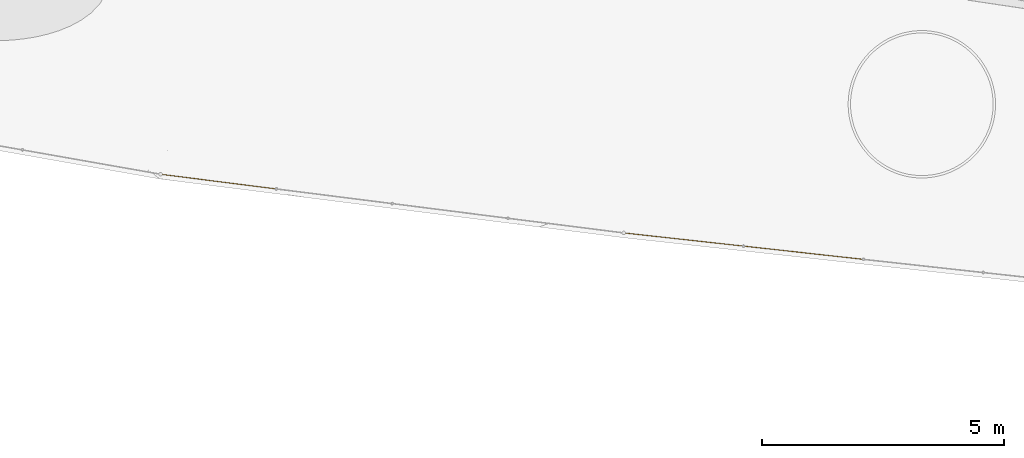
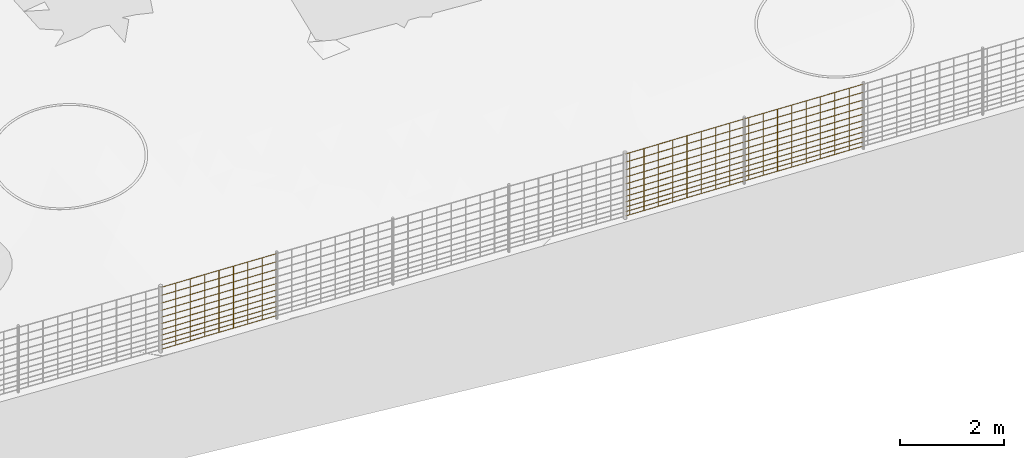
# Not in any storey, part 27 of 72: 3 railings.
"""IFC4 model written with IfcOpenShell, lengths in metres."""

import ifcopenshell
import ifcopenshell.guid

model = None  # the IFC model being written
_history = None  # IfcOwnerHistory: only IFC2X3 demands one
_inside = {}  # id of a spatial element -> (the spatial element, [elements in it])
_under = {}  # id of a project, library or spatial element -> (it, [spatial elements below it])
_declared = {}  # id of a project -> (the project, [libraries it declares])
_typed = {}  # id of a type object -> (the type object, [elements of that type])
_made_of = {}  # id of a material, layer set ... -> (it, [elements and type objects made of it])


def new_model(schema):
    """Start an empty IFC model of exactly this schema.

    Asked for "IFC4X3", IfcOpenShell would pick the latest addendum, in which some entities
    have other attributes; the version numbers below select the first issue.
    IFC2X3 requires an IfcOwnerHistory on every rooted entity: one is made here for all.
    """
    global model, _history
    if schema == "IFC4X3":
        model = ifcopenshell.file(schema_version=(4, 3, 0, 0))
    else:
        model = ifcopenshell.file(schema=schema)
    _inside.clear()
    _under.clear()
    _declared.clear()
    _typed.clear()
    _made_of.clear()
    _history = None
    if model.schema == "IFC2X3":
        org = make("IfcOrganization", Name="unknown")
        user = make(
            "IfcPersonAndOrganization",
            ThePerson=make("IfcPerson", FamilyName="unknown"),
            TheOrganization=org,
        )
        app = make(
            "IfcApplication",
            ApplicationDeveloper=org,
            Version="unknown",
            ApplicationFullName="unknown",
            ApplicationIdentifier="unknown",
        )
        _history = make(
            "IfcOwnerHistory",
            OwningUser=user,
            OwningApplication=app,
            ChangeAction="ADDED",
            CreationDate=0,
        )
    return model


def make(cls, **values):
    """One entity of the class cls with the attributes given. An attribute that is None is left unset."""
    return model.create_entity(
        cls, **{name: value for name, value in values.items() if value is not None}
    )


def rooted(cls, **values):
    """An entity with a GlobalId (a new one), such as an element, a storey or a relation."""
    return make(cls, GlobalId=ifcopenshell.guid.new(), OwnerHistory=_history, **values)


def si_unit(unit_type, name, prefix=None):
    """IfcSIUnit, for example si_unit("LENGTHUNIT", "METRE", prefix="MILLI")."""
    return make("IfcSIUnit", UnitType=unit_type, Prefix=prefix, Name=name)


def assignment(units):
    """IfcUnitAssignment: the units of a project."""
    return None if units is None else make("IfcUnitAssignment", Units=units)


def point(xyz):
    """IfcCartesianPoint."""
    return None if xyz is None else make("IfcCartesianPoint", Coordinates=xyz)


def direction(xyz):
    """IfcDirection."""
    return None if xyz is None else make("IfcDirection", DirectionRatios=xyz)


def frame(location, z_axis=None, x_axis=None):
    """IfcAxis2Placement3D, a coordinate frame: its origin and axes. An axis left out is left unset."""
    return make(
        "IfcAxis2Placement3D",
        Location=point(location),
        Axis=direction(z_axis),
        RefDirection=direction(x_axis),
    )


def origin_with_axes():
    """The frame at (0, 0, 0) with the z axis (0, 0, 1) and the x axis (1, 0, 0) written out."""
    return frame((0.0, 0.0, 0.0), z_axis=(0.0, 0.0, 1.0), x_axis=(1.0, 0.0, 0.0))


def place(relative_to, where):
    """IfcLocalPlacement: puts the frame where relative to a parent placement (None: the world)."""
    return make(
        "IfcLocalPlacement", PlacementRelTo=relative_to, RelativePlacement=where
    )


def context(
    kind, dimensions, precision=None, world=None, true_north=None, identifier=None
):
    """IfcGeometricRepresentationContext, for example the 3D "Model" context."""
    return make(
        "IfcGeometricRepresentationContext",
        ContextIdentifier=identifier,
        ContextType=kind,
        CoordinateSpaceDimension=dimensions,
        Precision=precision,
        WorldCoordinateSystem=world,
        TrueNorth=true_north,
    )


def subcontext(parent, identifier, kind, view, scale=None):
    """IfcGeometricRepresentationSubContext, for example "Body" below "Model"."""
    return make(
        "IfcGeometricRepresentationSubContext",
        ContextIdentifier=identifier,
        ContextType=kind,
        ParentContext=parent,
        TargetScale=scale,
        TargetView=view,
    )


def project(units=None, contexts=None):
    """IfcProject with its units and contexts."""
    return rooted(
        "IfcProject",
        Name="project",
        RepresentationContexts=contexts,
        UnitsInContext=assignment(units),
    )


def spatial(cls, under=None, at=None, **own):
    """A site, building, storey or space (cls), placed at a placement, below another one or the project."""
    s = rooted(cls, ObjectPlacement=at, **own)
    if under is not None:
        _under.setdefault(under.id(), (under, []))[1].append(s)
    return s


def point_list(points):
    """IfcCartesianPointList2D or 3D."""
    cls = (
        "IfcCartesianPointList2D" if len(points[0]) == 2 else "IfcCartesianPointList3D"
    )
    return make(cls, CoordList=points)


def polygons(points, faces, closed=None, point_numbers=None):
    """IfcPolygonalFaceSet: a face is its outer loop, then its inner loops; points numbered from 1."""
    made = []
    for loops in faces:
        if len(loops) == 1:
            made.append(make("IfcIndexedPolygonalFace", CoordIndex=loops[0]))
        else:
            made.append(
                make(
                    "IfcIndexedPolygonalFaceWithVoids",
                    CoordIndex=loops[0],
                    InnerCoordIndices=loops[1:],
                )
            )
    return make(
        "IfcPolygonalFaceSet",
        Coordinates=point_list(points),
        Closed=closed,
        Faces=made,
        PnIndex=point_numbers,
    )


def shape(context_of_items, identifier, shape_type, items):
    """IfcShapeRepresentation: the items that make up one representation, for example the "Body"."""
    return make(
        "IfcShapeRepresentation",
        ContextOfItems=context_of_items,
        RepresentationIdentifier=identifier,
        RepresentationType=shape_type,
        Items=items,
    )


def material(Name=None, Category=None):
    """IfcMaterial."""
    return make("IfcMaterial", Name=Name, Category=Category)


def made_of(thing, what):
    """Note that an element or type object is made of a material, layer set ...; save() writes the relation."""
    if what is not None:
        _made_of.setdefault(what.id(), (what, []))[1].append(thing)
    return thing


def element(
    cls,
    number,
    at=None,
    inside=None,
    cuts=None,
    type_object=None,
    material=None,
    context=None,
    identifier="Body",
    shape_type=None,
    held_by="IfcProductDefinitionShape",
    body=None,
    shapes=None,
    **own,
):
    """One element of the class cls, such as IfcWall. Its Tag is "e" and its number.

    at: its placement. inside: the storey or other place that contains it. cuts: it is an
    opening in that element (IfcRelVoidsElement). A single representation is given by context,
    identifier, shape_type and body (its items); several are given by shapes. held_by: the class
    of the entity that holds the representations. save() writes the other relations.
    """
    e = rooted(cls, Tag="e%d" % number, ObjectPlacement=at, **own)
    if body is not None:
        shapes = [shape(context, identifier, shape_type, body)]
    if shapes is not None:
        e.Representation = make(held_by, Representations=shapes)
    if inside is not None:
        _inside.setdefault(inside.id(), (inside, []))[1].append(e)
    if cuts is not None:
        rooted(
            "IfcRelVoidsElement", RelatingBuildingElement=cuts, RelatedOpeningElement=e
        )
    if type_object is not None:
        _typed.setdefault(type_object.id(), (type_object, []))[1].append(e)
    return made_of(e, material)


def aggregate(whole, parts):
    """IfcRelAggregates: a whole, such as a stair, and the parts it consists of."""
    return rooted("IfcRelAggregates", RelatingObject=whole, RelatedObjects=parts)


def save(model, path):
    """Write the relations noted so far, then the file.

    IfcRelAggregates (storeys below a building ...), IfcRelContainedInSpatialStructure (elements
    in a storey), IfcRelDefinesByType, IfcRelAssociatesMaterial and IfcRelDeclares: one each for
    every whole, place, type object, material and project.
    """
    for whole, parts in _under.values():
        aggregate(whole, parts)
    for where, things in _inside.values():
        rooted(
            "IfcRelContainedInSpatialStructure",
            RelatedElements=things,
            RelatingStructure=where,
        )
    for kind, things in _typed.values():
        rooted("IfcRelDefinesByType", RelatedObjects=things, RelatingType=kind)
    for what, things in _made_of.values():
        rooted("IfcRelAssociatesMaterial", RelatedObjects=things, RelatingMaterial=what)
    for by, libraries in _declared.values():
        rooted("IfcRelDeclares", RelatingContext=by, RelatedDefinitions=libraries)
    model.write(path)


model = new_model("IFC4")

# Units and contexts
model_context = context("Model", 3, precision=1e-05, world=origin_with_axes(), true_north=direction((0.0, 1.0)))
body_context = subcontext(model_context, "Body", "Model", "MODEL_VIEW")
ifc_project = project(units=[si_unit("AREAUNIT", "SQUARE_METRE"), si_unit("VOLUMEUNIT", "CUBIC_METRE"), si_unit("LENGTHUNIT", "METRE")], contexts=[model_context])

# Site
site_placement = place(None, origin_with_axes())
site = spatial("IfcSite", under=ifc_project, at=site_placement, Name="Lares · Rua das Mercês · artigo 4771")

# Railings
ifc_material = material(Name="Aço galvanizado / Stahl verzinkt", Category="steel")
railing_1_placement = place(site_placement, frame((0.0, 0.0, 0.0), z_axis=(0.0, 0.0, 1.0), x_axis=(1.0, -1.03767253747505e-17, 0.0)))
element("IfcRailing", 1, at=railing_1_placement, inside=site, material=ifc_material, Name="Vedação · rede ovelheira 1.030", ObjectType="SHEEP_WIRE_FENCE", PredefinedType="USERDEFINED", context=body_context, shape_type="Tessellation", body=[
    polygons([(16.0193684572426, 1.10489296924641, 12.3371976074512), (16.0192697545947, 1.10339476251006, 12.3356990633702), (16.0190397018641, 1.10191103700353, 12.3371976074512), (16.019138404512, 1.10340924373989, 12.3386961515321), (13.5394967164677, 1.37829662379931, 12.2271939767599), (13.5393980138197, 1.37679841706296, 12.225695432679), (13.5391679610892, 1.37531469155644, 12.2271939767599), (13.5392666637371, 1.37681289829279, 12.2286925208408), (16.0193684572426, 1.10489296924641, 12.4371976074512), (16.0192697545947, 1.10339476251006, 12.4356990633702), (16.0190397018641, 1.10191103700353, 12.4371976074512), (16.019138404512, 1.10340924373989, 12.4386961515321), (13.5394967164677, 1.37829662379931, 12.3271939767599), (13.5393980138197, 1.37679841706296, 12.325695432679), (13.5391679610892, 1.37531469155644, 12.3271939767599), (13.5392666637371, 1.37681289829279, 12.3286925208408), (16.0193684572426, 1.10489296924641, 12.5471976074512), (16.0192697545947, 1.10339476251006, 12.5456990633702), (16.0190397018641, 1.10191103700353, 12.5471976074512), (16.019138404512, 1.10340924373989, 12.5486961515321), (13.5394967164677, 1.37829662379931, 12.4371939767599), (13.5393980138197, 1.37679841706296, 12.435695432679), (13.5391679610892, 1.37531469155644, 12.4371939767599), (13.5392666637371, 1.37681289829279, 12.4386925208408), (16.0193684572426, 1.10489296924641, 12.6671976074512), (16.0192697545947, 1.10339476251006, 12.6656990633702), (16.0190397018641, 1.10191103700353, 12.6671976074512), (16.019138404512, 1.10340924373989, 12.6686961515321), (13.5394967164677, 1.37829662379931, 12.5571939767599), (13.5393980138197, 1.37679841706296, 12.555695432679), (13.5391679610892, 1.37531469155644, 12.5571939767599), (13.5392666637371, 1.37681289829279, 12.5586925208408), (16.0193684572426, 1.10489296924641, 12.7971976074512), (16.0192697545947, 1.10339476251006, 12.7956990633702), (16.0190397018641, 1.10191103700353, 12.7971976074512), (16.019138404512, 1.10340924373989, 12.7986961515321), (13.5394967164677, 1.37829662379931, 12.6871939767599), (13.5393980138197, 1.37679841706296, 12.685695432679), (13.5391679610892, 1.37531469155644, 12.6871939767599), (13.5392666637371, 1.37681289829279, 12.6886925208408), (16.0193684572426, 1.10489296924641, 12.9371976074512), (16.0192697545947, 1.10339476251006, 12.9356990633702), (16.0190397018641, 1.10191103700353, 12.9371976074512), (16.019138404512, 1.10340924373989, 12.9386961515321), (13.5394967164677, 1.37829662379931, 12.8271939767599), (13.5393980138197, 1.37679841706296, 12.825695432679), (13.5391679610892, 1.37531469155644, 12.8271939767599), (13.5392666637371, 1.37681289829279, 12.8286925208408), (16.0193684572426, 1.10489296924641, 13.0871976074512), (16.0192697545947, 1.10339476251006, 13.0856990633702), (16.0190397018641, 1.10191103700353, 13.0871976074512), (16.019138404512, 1.10340924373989, 13.0886961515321), (13.5394967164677, 1.37829662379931, 12.9771939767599), (13.5393980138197, 1.37679841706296, 12.975695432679), (13.5391679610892, 1.37531469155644, 12.9771939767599), (13.5392666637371, 1.37681289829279, 12.9786925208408), (16.0193684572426, 1.10489296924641, 13.2471976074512), (16.0192697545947, 1.10339476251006, 13.2456990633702), (16.0190397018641, 1.10191103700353, 13.2471976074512), (16.019138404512, 1.10340924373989, 13.2486961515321), (13.5394967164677, 1.37829662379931, 13.1371939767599), (13.5393980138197, 1.37679841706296, 13.135695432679), (13.5391679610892, 1.37531469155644, 13.1371939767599), (13.5392666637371, 1.37681289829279, 13.1386925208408), (16.0193684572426, 1.10489296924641, 13.4171976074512), (16.0192697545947, 1.10339476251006, 13.4156990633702), (16.0190397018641, 1.10191103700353, 13.4171976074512), (16.019138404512, 1.10340924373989, 13.4186961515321), (13.5394967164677, 1.37829662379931, 13.3071939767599), (13.5393980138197, 1.37679841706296, 13.305695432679), (13.5391679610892, 1.37531469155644, 13.3071939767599), (13.5392666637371, 1.37681289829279, 13.3086925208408), (16.0193684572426, 1.10489296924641, 13.5971976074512), (16.0192697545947, 1.10339476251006, 13.5956990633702), (16.0190397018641, 1.10191103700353, 13.5971976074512), (16.019138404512, 1.10340924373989, 13.5986961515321), (13.5394967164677, 1.37829662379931, 13.4871939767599), (13.5393980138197, 1.37679841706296, 13.485695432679), (13.5391679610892, 1.37531469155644, 13.4871939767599), (13.5392666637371, 1.37681289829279, 13.4886925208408), (16.0193684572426, 1.10489296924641, 13.7871976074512), (16.0192697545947, 1.10339476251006, 13.7856990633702), (16.0190397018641, 1.10191103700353, 13.7871976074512), (16.019138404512, 1.10340924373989, 13.7886961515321), (13.5394967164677, 1.37829662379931, 13.6771939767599), (13.5393980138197, 1.37679841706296, 13.675695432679), (13.5391679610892, 1.37531469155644, 13.6771939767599), (13.5392666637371, 1.37681289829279, 13.6786925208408), (15.7210108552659, 1.13777754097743, 12.3239701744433), (15.7195108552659, 1.13627754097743, 12.3239701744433), (15.7210108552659, 1.13477754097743, 12.3239701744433), (15.7225108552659, 1.13627754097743, 12.3239701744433), (15.7210108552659, 1.13777754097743, 13.7739701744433), (15.7195108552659, 1.13627754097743, 13.7739701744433), (15.7210108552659, 1.13477754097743, 13.7739701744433), (15.7225108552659, 1.13627754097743, 13.7739701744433), (15.4228176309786, 1.17065307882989, 12.3107427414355), (15.4213176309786, 1.16915307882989, 12.3107427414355), (15.4228176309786, 1.16765307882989, 12.3107427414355), (15.4243176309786, 1.16915307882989, 12.3107427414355), (15.4228176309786, 1.17065307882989, 13.7607427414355), (15.4213176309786, 1.16915307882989, 13.7607427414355), (15.4228176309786, 1.16765307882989, 13.7607427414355), (15.4243176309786, 1.16915307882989, 13.7607427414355), (15.1246244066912, 1.20352861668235, 12.2975153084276), (15.1231244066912, 1.20202861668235, 12.2975153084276), (15.1246244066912, 1.20052861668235, 12.2975153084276), (15.1261244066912, 1.20202861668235, 12.2975153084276), (15.1246244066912, 1.20352861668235, 13.7475153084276), (15.1231244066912, 1.20202861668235, 13.7475153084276), (15.1246244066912, 1.20052861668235, 13.7475153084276), (15.1261244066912, 1.20202861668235, 13.7475153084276), (14.8264311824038, 1.2364041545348, 12.2842878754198), (14.8249311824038, 1.2349041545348, 12.2842878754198), (14.8264311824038, 1.2334041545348, 12.2842878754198), (14.8279311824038, 1.2349041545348, 12.2842878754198), (14.8264311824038, 1.2364041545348, 13.7342878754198), (14.8249311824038, 1.2349041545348, 13.7342878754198), (14.8264311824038, 1.2334041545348, 13.7342878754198), (14.8279311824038, 1.2349041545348, 13.7342878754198), (14.5282379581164, 1.26927969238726, 12.2710604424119), (14.5267379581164, 1.26777969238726, 12.2710604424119), (14.5282379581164, 1.26627969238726, 12.2710604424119), (14.5297379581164, 1.26777969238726, 12.2710604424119), (14.5282379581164, 1.26927969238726, 13.7210604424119), (14.5267379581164, 1.26777969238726, 13.7210604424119), (14.5282379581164, 1.26627969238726, 13.7210604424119), (14.5297379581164, 1.26777969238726, 13.7210604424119), (14.230044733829, 1.30215523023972, 12.2578330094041), (14.228544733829, 1.30065523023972, 12.2578330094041), (14.230044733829, 1.29915523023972, 12.2578330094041), (14.231544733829, 1.30065523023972, 12.2578330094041), (14.230044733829, 1.30215523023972, 13.7078330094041), (14.228544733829, 1.30065523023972, 13.7078330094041), (14.230044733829, 1.29915523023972, 13.7078330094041), (14.231544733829, 1.30065523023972, 13.7078330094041), (13.9318515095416, 1.33503076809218, 12.2446055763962), (13.9303515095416, 1.33353076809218, 12.2446055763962), (13.9318515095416, 1.33203076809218, 12.2446055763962), (13.9333515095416, 1.33353076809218, 12.2446055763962), (13.9318515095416, 1.33503076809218, 13.6946055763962), (13.9303515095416, 1.33353076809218, 13.6946055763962), (13.9318515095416, 1.33203076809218, 13.6946055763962), (13.9333515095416, 1.33353076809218, 13.6946055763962), (13.6336582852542, 1.36790630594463, 12.2313781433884), (13.6321582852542, 1.36640630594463, 12.2313781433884), (13.6336582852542, 1.36490630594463, 12.2313781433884), (13.6351582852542, 1.36640630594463, 12.2313781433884), (13.6336582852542, 1.36790630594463, 13.6813781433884), (13.6321582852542, 1.36640630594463, 13.6813781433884), (13.6336582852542, 1.36490630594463, 13.6813781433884), (13.6351582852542, 1.36640630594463, 13.6813781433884)], [[[4, 3, 2, 1]], [[5, 6, 7, 8]], [[1, 2, 6, 5]], [[2, 3, 7, 6]], [[3, 4, 8, 7]], [[4, 1, 5, 8]], [[12, 11, 10, 9]], [[13, 14, 15, 16]], [[9, 10, 14, 13]], [[10, 11, 15, 14]], [[11, 12, 16, 15]], [[12, 9, 13, 16]], [[20, 19, 18, 17]], [[21, 22, 23, 24]], [[17, 18, 22, 21]], [[18, 19, 23, 22]], [[19, 20, 24, 23]], [[20, 17, 21, 24]], [[28, 27, 26, 25]], [[29, 30, 31, 32]], [[25, 26, 30, 29]], [[26, 27, 31, 30]], [[27, 28, 32, 31]], [[28, 25, 29, 32]], [[36, 35, 34, 33]], [[37, 38, 39, 40]], [[33, 34, 38, 37]], [[34, 35, 39, 38]], [[35, 36, 40, 39]], [[36, 33, 37, 40]], [[44, 43, 42, 41]], [[45, 46, 47, 48]], [[41, 42, 46, 45]], [[42, 43, 47, 46]], [[43, 44, 48, 47]], [[44, 41, 45, 48]], [[52, 51, 50, 49]], [[53, 54, 55, 56]], [[49, 50, 54, 53]], [[50, 51, 55, 54]], [[51, 52, 56, 55]], [[52, 49, 53, 56]], [[60, 59, 58, 57]], [[61, 62, 63, 64]], [[57, 58, 62, 61]], [[58, 59, 63, 62]], [[59, 60, 64, 63]], [[60, 57, 61, 64]], [[68, 67, 66, 65]], [[69, 70, 71, 72]], [[65, 66, 70, 69]], [[66, 67, 71, 70]], [[67, 68, 72, 71]], [[68, 65, 69, 72]], [[76, 75, 74, 73]], [[77, 78, 79, 80]], [[73, 74, 78, 77]], [[74, 75, 79, 78]], [[75, 76, 80, 79]], [[76, 73, 77, 80]], [[84, 83, 82, 81]], [[85, 86, 87, 88]], [[81, 82, 86, 85]], [[82, 83, 87, 86]], [[83, 84, 88, 87]], [[84, 81, 85, 88]], [[92, 91, 90, 89]], [[93, 94, 95, 96]], [[89, 90, 94, 93]], [[90, 91, 95, 94]], [[91, 92, 96, 95]], [[92, 89, 93, 96]], [[100, 99, 98, 97]], [[101, 102, 103, 104]], [[97, 98, 102, 101]], [[98, 99, 103, 102]], [[99, 100, 104, 103]], [[100, 97, 101, 104]], [[108, 107, 106, 105]], [[109, 110, 111, 112]], [[105, 106, 110, 109]], [[106, 107, 111, 110]], [[107, 108, 112, 111]], [[108, 105, 109, 112]], [[116, 115, 114, 113]], [[117, 118, 119, 120]], [[113, 114, 118, 117]], [[114, 115, 119, 118]], [[115, 116, 120, 119]], [[116, 113, 117, 120]], [[124, 123, 122, 121]], [[125, 126, 127, 128]], [[121, 122, 126, 125]], [[122, 123, 127, 126]], [[123, 124, 128, 127]], [[124, 121, 125, 128]], [[132, 131, 130, 129]], [[133, 134, 135, 136]], [[129, 130, 134, 133]], [[130, 131, 135, 134]], [[131, 132, 136, 135]], [[132, 129, 133, 136]], [[140, 139, 138, 137]], [[141, 142, 143, 144]], [[137, 138, 142, 141]], [[138, 139, 143, 142]], [[139, 140, 144, 143]], [[140, 137, 141, 144]], [[148, 147, 146, 145]], [[149, 150, 151, 152]], [[145, 146, 150, 149]], [[146, 147, 151, 150]], [[147, 148, 152, 151]], [[148, 145, 149, 152]]]),
])
railing_2_placement = place(site_placement, frame((0.0, 0.0, 0.0), z_axis=(0.0, 0.0, 1.0), x_axis=(1.0, -1.03767253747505e-17, 0.0)))
element("IfcRailing", 2, at=railing_2_placement, inside=site, material=ifc_material, Name="Vedação · rede ovelheira 1.031", ObjectType="SHEEP_WIRE_FENCE", PredefinedType="USERDEFINED", context=body_context, shape_type="Tessellation", body=[
    polygons([(13.5394967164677, 1.37829662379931, 12.2271939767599), (13.5394047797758, 1.37679767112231, 12.2256957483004), (13.5391679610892, 1.37531469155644, 12.2271939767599), (13.539259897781, 1.37681364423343, 12.2286922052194), (11.0596249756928, 1.65170027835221, 12.1058320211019), (11.0595330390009, 1.65020132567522, 12.1043337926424), (11.0592962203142, 1.64871834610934, 12.1058320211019), (11.0593881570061, 1.65021729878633, 12.1073302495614), (13.5394967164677, 1.37829662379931, 12.3271939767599), (13.5394047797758, 1.37679767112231, 12.3256957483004), (13.5391679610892, 1.37531469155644, 12.3271939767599), (13.539259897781, 1.37681364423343, 12.3286922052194), (11.0596249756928, 1.65170027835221, 12.2058320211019), (11.0595330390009, 1.65020132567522, 12.2043337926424), (11.0592962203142, 1.64871834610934, 12.2058320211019), (11.0593881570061, 1.65021729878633, 12.2073302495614), (13.5394967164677, 1.37829662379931, 12.4371939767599), (13.5394047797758, 1.37679767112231, 12.4356957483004), (13.5391679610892, 1.37531469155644, 12.4371939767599), (13.539259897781, 1.37681364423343, 12.4386922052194), (11.0596249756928, 1.65170027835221, 12.3158320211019), (11.0595330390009, 1.65020132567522, 12.3143337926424), (11.0592962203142, 1.64871834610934, 12.3158320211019), (11.0593881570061, 1.65021729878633, 12.3173302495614), (13.5394967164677, 1.37829662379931, 12.5571939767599), (13.5394047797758, 1.37679767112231, 12.5556957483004), (13.5391679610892, 1.37531469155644, 12.5571939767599), (13.539259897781, 1.37681364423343, 12.5586922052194), (11.0596249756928, 1.65170027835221, 12.4358320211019), (11.0595330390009, 1.65020132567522, 12.4343337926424), (11.0592962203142, 1.64871834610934, 12.4358320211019), (11.0593881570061, 1.65021729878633, 12.4373302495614), (13.5394967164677, 1.37829662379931, 12.6871939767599), (13.5394047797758, 1.37679767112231, 12.6856957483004), (13.5391679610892, 1.37531469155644, 12.6871939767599), (13.539259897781, 1.37681364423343, 12.6886922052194), (11.0596249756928, 1.65170027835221, 12.5658320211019), (11.0595330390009, 1.65020132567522, 12.5643337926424), (11.0592962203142, 1.64871834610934, 12.5658320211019), (11.0593881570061, 1.65021729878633, 12.5673302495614), (13.5394967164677, 1.37829662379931, 12.8271939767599), (13.5394047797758, 1.37679767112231, 12.8256957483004), (13.5391679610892, 1.37531469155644, 12.8271939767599), (13.539259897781, 1.37681364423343, 12.8286922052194), (11.0596249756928, 1.65170027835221, 12.7058320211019), (11.0595330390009, 1.65020132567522, 12.7043337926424), (11.0592962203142, 1.64871834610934, 12.7058320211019), (11.0593881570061, 1.65021729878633, 12.7073302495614), (13.5394967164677, 1.37829662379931, 12.9771939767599), (13.5394047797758, 1.37679767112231, 12.9756957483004), (13.5391679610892, 1.37531469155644, 12.9771939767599), (13.539259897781, 1.37681364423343, 12.9786922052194), (11.0596249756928, 1.65170027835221, 12.8558320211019), (11.0595330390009, 1.65020132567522, 12.8543337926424), (11.0592962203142, 1.64871834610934, 12.8558320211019), (11.0593881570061, 1.65021729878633, 12.8573302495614), (13.5394967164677, 1.37829662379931, 13.1371939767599), (13.5394047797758, 1.37679767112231, 13.1356957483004), (13.5391679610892, 1.37531469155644, 13.1371939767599), (13.539259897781, 1.37681364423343, 13.1386922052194), (11.0596249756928, 1.65170027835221, 13.0158320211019), (11.0595330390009, 1.65020132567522, 13.0143337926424), (11.0592962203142, 1.64871834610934, 13.0158320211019), (11.0593881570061, 1.65021729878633, 13.0173302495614), (13.5394967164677, 1.37829662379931, 13.3071939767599), (13.5394047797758, 1.37679767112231, 13.3056957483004), (13.5391679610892, 1.37531469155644, 13.3071939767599), (13.539259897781, 1.37681364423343, 13.3086922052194), (11.0596249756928, 1.65170027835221, 13.1858320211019), (11.0595330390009, 1.65020132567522, 13.1843337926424), (11.0592962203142, 1.64871834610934, 13.1858320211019), (11.0593881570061, 1.65021729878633, 13.1873302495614), (13.5394967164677, 1.37829662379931, 13.4871939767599), (13.5394047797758, 1.37679767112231, 13.4856957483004), (13.5391679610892, 1.37531469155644, 13.4871939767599), (13.539259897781, 1.37681364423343, 13.4886922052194), (11.0596249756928, 1.65170027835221, 13.3658320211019), (11.0595330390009, 1.65020132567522, 13.3643337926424), (11.0592962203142, 1.64871834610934, 13.3658320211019), (11.0593881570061, 1.65021729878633, 13.3673302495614), (13.5394967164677, 1.37829662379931, 13.6771939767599), (13.5394047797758, 1.37679767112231, 13.6756957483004), (13.5391679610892, 1.37531469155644, 13.6771939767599), (13.539259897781, 1.37681364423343, 13.6786922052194), (11.0596249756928, 1.65170027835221, 13.5558320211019), (11.0595330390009, 1.65020132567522, 13.5543337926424), (11.0592962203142, 1.64871834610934, 13.5558320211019), (11.0593881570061, 1.65021729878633, 13.5573302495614), (13.241139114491, 1.41118119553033, 12.2126007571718), (13.239639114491, 1.40968119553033, 12.2126007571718), (13.241139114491, 1.40818119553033, 12.2126007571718), (13.242639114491, 1.40968119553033, 12.2126007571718), (13.241139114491, 1.41118119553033, 13.6626007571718), (13.239639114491, 1.40968119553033, 13.6626007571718), (13.241139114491, 1.40818119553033, 13.6626007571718), (13.242639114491, 1.40968119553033, 13.6626007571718), (12.9429458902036, 1.44405673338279, 12.1980075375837), (12.9414458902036, 1.44255673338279, 12.1980075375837), (12.9429458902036, 1.44105673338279, 12.1980075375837), (12.9444458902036, 1.44255673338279, 12.1980075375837), (12.9429458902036, 1.44405673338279, 13.6480075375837), (12.9414458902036, 1.44255673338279, 13.6480075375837), (12.9429458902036, 1.44105673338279, 13.6480075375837), (12.9444458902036, 1.44255673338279, 13.6480075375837), (12.6447526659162, 1.47693227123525, 12.1834143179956), (12.6432526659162, 1.47543227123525, 12.1834143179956), (12.6447526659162, 1.47393227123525, 12.1834143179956), (12.6462526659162, 1.47543227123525, 12.1834143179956), (12.6447526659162, 1.47693227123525, 13.6334143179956), (12.6432526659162, 1.47543227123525, 13.6334143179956), (12.6447526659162, 1.47393227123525, 13.6334143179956), (12.6462526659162, 1.47543227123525, 13.6334143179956), (12.3465594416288, 1.5098078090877, 12.1688210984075), (12.3450594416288, 1.5083078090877, 12.1688210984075), (12.3465594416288, 1.5068078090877, 12.1688210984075), (12.3480594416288, 1.5083078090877, 12.1688210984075), (12.3465594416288, 1.5098078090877, 13.6188210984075), (12.3450594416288, 1.5083078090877, 13.6188210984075), (12.3465594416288, 1.5068078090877, 13.6188210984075), (12.3480594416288, 1.5083078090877, 13.6188210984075), (12.0483662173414, 1.54268334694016, 12.1542278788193), (12.0468662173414, 1.54118334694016, 12.1542278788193), (12.0483662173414, 1.53968334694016, 12.1542278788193), (12.0498662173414, 1.54118334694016, 12.1542278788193), (12.0483662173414, 1.54268334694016, 13.6042278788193), (12.0468662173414, 1.54118334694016, 13.6042278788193), (12.0483662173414, 1.53968334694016, 13.6042278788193), (12.0498662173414, 1.54118334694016, 13.6042278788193), (11.7501729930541, 1.57555888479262, 12.1396346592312), (11.7486729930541, 1.57405888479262, 12.1396346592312), (11.7501729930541, 1.57255888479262, 12.1396346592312), (11.7516729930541, 1.57405888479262, 12.1396346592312), (11.7501729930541, 1.57555888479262, 13.5896346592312), (11.7486729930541, 1.57405888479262, 13.5896346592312), (11.7501729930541, 1.57255888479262, 13.5896346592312), (11.7516729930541, 1.57405888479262, 13.5896346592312), (11.4519797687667, 1.60843442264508, 12.1250414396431), (11.4504797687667, 1.60693442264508, 12.1250414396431), (11.4519797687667, 1.60543442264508, 12.1250414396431), (11.4534797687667, 1.60693442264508, 12.1250414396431), (11.4519797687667, 1.60843442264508, 13.5750414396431), (11.4504797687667, 1.60693442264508, 13.5750414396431), (11.4519797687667, 1.60543442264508, 13.5750414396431), (11.4534797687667, 1.60693442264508, 13.5750414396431), (11.1537865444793, 1.64130996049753, 12.110448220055), (11.1522865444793, 1.63980996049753, 12.110448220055), (11.1537865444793, 1.63830996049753, 12.110448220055), (11.1552865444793, 1.63980996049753, 12.110448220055), (11.1537865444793, 1.64130996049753, 13.560448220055), (11.1522865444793, 1.63980996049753, 13.560448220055), (11.1537865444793, 1.63830996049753, 13.560448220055), (11.1552865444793, 1.63980996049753, 13.560448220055)], [[[4, 3, 2, 1]], [[5, 6, 7, 8]], [[1, 2, 6, 5]], [[2, 3, 7, 6]], [[3, 4, 8, 7]], [[4, 1, 5, 8]], [[12, 11, 10, 9]], [[13, 14, 15, 16]], [[9, 10, 14, 13]], [[10, 11, 15, 14]], [[11, 12, 16, 15]], [[12, 9, 13, 16]], [[20, 19, 18, 17]], [[21, 22, 23, 24]], [[17, 18, 22, 21]], [[18, 19, 23, 22]], [[19, 20, 24, 23]], [[20, 17, 21, 24]], [[28, 27, 26, 25]], [[29, 30, 31, 32]], [[25, 26, 30, 29]], [[26, 27, 31, 30]], [[27, 28, 32, 31]], [[28, 25, 29, 32]], [[36, 35, 34, 33]], [[37, 38, 39, 40]], [[33, 34, 38, 37]], [[34, 35, 39, 38]], [[35, 36, 40, 39]], [[36, 33, 37, 40]], [[44, 43, 42, 41]], [[45, 46, 47, 48]], [[41, 42, 46, 45]], [[42, 43, 47, 46]], [[43, 44, 48, 47]], [[44, 41, 45, 48]], [[52, 51, 50, 49]], [[53, 54, 55, 56]], [[49, 50, 54, 53]], [[50, 51, 55, 54]], [[51, 52, 56, 55]], [[52, 49, 53, 56]], [[60, 59, 58, 57]], [[61, 62, 63, 64]], [[57, 58, 62, 61]], [[58, 59, 63, 62]], [[59, 60, 64, 63]], [[60, 57, 61, 64]], [[68, 67, 66, 65]], [[69, 70, 71, 72]], [[65, 66, 70, 69]], [[66, 67, 71, 70]], [[67, 68, 72, 71]], [[68, 65, 69, 72]], [[76, 75, 74, 73]], [[77, 78, 79, 80]], [[73, 74, 78, 77]], [[74, 75, 79, 78]], [[75, 76, 80, 79]], [[76, 73, 77, 80]], [[84, 83, 82, 81]], [[85, 86, 87, 88]], [[81, 82, 86, 85]], [[82, 83, 87, 86]], [[83, 84, 88, 87]], [[84, 81, 85, 88]], [[92, 91, 90, 89]], [[93, 94, 95, 96]], [[89, 90, 94, 93]], [[90, 91, 95, 94]], [[91, 92, 96, 95]], [[92, 89, 93, 96]], [[100, 99, 98, 97]], [[101, 102, 103, 104]], [[97, 98, 102, 101]], [[98, 99, 103, 102]], [[99, 100, 104, 103]], [[100, 97, 101, 104]], [[108, 107, 106, 105]], [[109, 110, 111, 112]], [[105, 106, 110, 109]], [[106, 107, 111, 110]], [[107, 108, 112, 111]], [[108, 105, 109, 112]], [[116, 115, 114, 113]], [[117, 118, 119, 120]], [[113, 114, 118, 117]], [[114, 115, 119, 118]], [[115, 116, 120, 119]], [[116, 113, 117, 120]], [[124, 123, 122, 121]], [[125, 126, 127, 128]], [[121, 122, 126, 125]], [[122, 123, 127, 126]], [[123, 124, 128, 127]], [[124, 121, 125, 128]], [[132, 131, 130, 129]], [[133, 134, 135, 136]], [[129, 130, 134, 133]], [[130, 131, 135, 134]], [[131, 132, 136, 135]], [[132, 129, 133, 136]], [[140, 139, 138, 137]], [[141, 142, 143, 144]], [[137, 138, 142, 141]], [[138, 139, 143, 142]], [[139, 140, 144, 143]], [[140, 137, 141, 144]], [[148, 147, 146, 145]], [[149, 150, 151, 152]], [[145, 146, 150, 149]], [[146, 147, 151, 150]], [[147, 148, 152, 151]], [[148, 145, 149, 152]]]),
])
railing_3_placement = place(site_placement, frame((0.0, 0.0, 0.0), z_axis=(0.0, 0.0, 1.0), x_axis=(1.0, -1.03767253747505e-17, 0.0)))
element("IfcRailing", 3, at=railing_3_placement, inside=site, material=ifc_material, Name="Vedação · rede ovelheira 1.035", ObjectType="SHEEP_WIRE_FENCE", PredefinedType="USERDEFINED", context=body_context, shape_type="Tessellation", body=[
    polygons([(3.87271632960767, 2.56166636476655, 11.7416821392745), (3.87261296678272, 2.56016747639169, 11.7401845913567), (3.87233949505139, 2.55869012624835, 11.7416821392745), (3.87244285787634, 2.56018901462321, 11.7431796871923), (1.47707210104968, 2.86498934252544, 11.6034383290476), (1.47696873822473, 2.86349045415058, 11.6019407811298), (1.47669526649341, 2.86201310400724, 11.6034383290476), (1.47679862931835, 2.8635119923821, 11.6049358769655), (3.87271632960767, 2.56166636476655, 11.8416821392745), (3.87261296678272, 2.56016747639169, 11.8401845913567), (3.87233949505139, 2.55869012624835, 11.8416821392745), (3.87244285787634, 2.56018901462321, 11.8431796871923), (1.47707210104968, 2.86498934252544, 11.7034383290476), (1.47696873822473, 2.86349045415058, 11.7019407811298), (1.47669526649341, 2.86201310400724, 11.7034383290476), (1.47679862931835, 2.8635119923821, 11.7049358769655), (3.87271632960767, 2.56166636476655, 11.9516821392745), (3.87261296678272, 2.56016747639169, 11.9501845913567), (3.87233949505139, 2.55869012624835, 11.9516821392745), (3.87244285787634, 2.56018901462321, 11.9531796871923), (1.47707210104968, 2.86498934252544, 11.8134383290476), (1.47696873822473, 2.86349045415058, 11.8119407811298), (1.47669526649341, 2.86201310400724, 11.8134383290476), (1.47679862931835, 2.8635119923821, 11.8149358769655), (3.87271632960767, 2.56166636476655, 12.0716821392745), (3.87261296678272, 2.56016747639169, 12.0701845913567), (3.87233949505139, 2.55869012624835, 12.0716821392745), (3.87244285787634, 2.56018901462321, 12.0731796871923), (1.47707210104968, 2.86498934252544, 11.9334383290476), (1.47696873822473, 2.86349045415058, 11.9319407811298), (1.47669526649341, 2.86201310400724, 11.9334383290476), (1.47679862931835, 2.8635119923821, 11.9349358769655), (3.87271632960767, 2.56166636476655, 12.2016821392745), (3.87261296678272, 2.56016747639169, 12.2001845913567), (3.87233949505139, 2.55869012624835, 12.2016821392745), (3.87244285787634, 2.56018901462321, 12.2031796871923), (1.47707210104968, 2.86498934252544, 12.0634383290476), (1.47696873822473, 2.86349045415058, 12.0619407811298), (1.47669526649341, 2.86201310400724, 12.0634383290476), (1.47679862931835, 2.8635119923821, 12.0649358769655), (3.87271632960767, 2.56166636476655, 12.3416821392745), (3.87261296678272, 2.56016747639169, 12.3401845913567), (3.87233949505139, 2.55869012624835, 12.3416821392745), (3.87244285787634, 2.56018901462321, 12.3431796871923), (1.47707210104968, 2.86498934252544, 12.2034383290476), (1.47696873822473, 2.86349045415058, 12.2019407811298), (1.47669526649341, 2.86201310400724, 12.2034383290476), (1.47679862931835, 2.8635119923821, 12.2049358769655), (3.87271632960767, 2.56166636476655, 12.4916821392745), (3.87261296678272, 2.56016747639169, 12.4901845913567), (3.87233949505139, 2.55869012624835, 12.4916821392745), (3.87244285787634, 2.56018901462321, 12.4931796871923), (1.47707210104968, 2.86498934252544, 12.3534383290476), (1.47696873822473, 2.86349045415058, 12.3519407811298), (1.47669526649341, 2.86201310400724, 12.3534383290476), (1.47679862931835, 2.8635119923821, 12.3549358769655), (3.87271632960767, 2.56166636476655, 12.6516821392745), (3.87261296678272, 2.56016747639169, 12.6501845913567), (3.87233949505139, 2.55869012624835, 12.6516821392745), (3.87244285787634, 2.56018901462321, 12.6531796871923), (1.47707210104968, 2.86498934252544, 12.5134383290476), (1.47696873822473, 2.86349045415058, 12.5119407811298), (1.47669526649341, 2.86201310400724, 12.5134383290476), (1.47679862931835, 2.8635119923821, 12.5149358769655), (3.87271632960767, 2.56166636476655, 12.8216821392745), (3.87261296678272, 2.56016747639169, 12.8201845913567), (3.87233949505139, 2.55869012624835, 12.8216821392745), (3.87244285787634, 2.56018901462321, 12.8231796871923), (1.47707210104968, 2.86498934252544, 12.6834383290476), (1.47696873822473, 2.86349045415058, 12.6819407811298), (1.47669526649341, 2.86201310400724, 12.6834383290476), (1.47679862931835, 2.8635119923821, 12.6849358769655), (3.87271632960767, 2.56166636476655, 13.0016821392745), (3.87261296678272, 2.56016747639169, 13.0001845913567), (3.87233949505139, 2.55869012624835, 13.0016821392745), (3.87244285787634, 2.56018901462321, 13.0031796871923), (1.47707210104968, 2.86498934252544, 12.8634383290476), (1.47696873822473, 2.86349045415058, 12.8619407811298), (1.47669526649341, 2.86201310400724, 12.8634383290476), (1.47679862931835, 2.8635119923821, 12.8649358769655), (3.87271632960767, 2.56166636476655, 13.1916821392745), (3.87261296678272, 2.56016747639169, 13.1901845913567), (3.87233949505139, 2.55869012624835, 13.1916821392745), (3.87244285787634, 2.56018901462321, 13.1931796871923), (1.47707210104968, 2.86498934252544, 13.0534383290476), (1.47696873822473, 2.86349045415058, 13.0519407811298), (1.47669526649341, 2.86201310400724, 13.0534383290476), (1.47679862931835, 2.8635119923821, 13.0549358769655), (3.57490406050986, 2.5993617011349, 11.7245073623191), (3.57340406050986, 2.5978617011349, 11.7245073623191), (3.57490406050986, 2.5963617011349, 11.7245073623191), (3.57640406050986, 2.5978617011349, 11.7245073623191), (3.57490406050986, 2.5993617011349, 13.1745073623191), (3.57340406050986, 2.5978617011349, 13.1745073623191), (3.57490406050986, 2.5963617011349, 13.1745073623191), (3.57640406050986, 2.5978617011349, 13.1745073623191), (3.2772802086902, 2.63704515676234, 11.7073325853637), (3.2757802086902, 2.63554515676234, 11.7073325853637), (3.2772802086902, 2.63404515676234, 11.7073325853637), (3.2787802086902, 2.63554515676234, 11.7073325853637), (3.2772802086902, 2.63704515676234, 13.1573325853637), (3.2757802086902, 2.63554515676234, 13.1573325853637), (3.2772802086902, 2.63404515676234, 13.1573325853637), (3.2787802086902, 2.63554515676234, 13.1573325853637), (2.97965635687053, 2.67472861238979, 11.6901578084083), (2.97815635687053, 2.67322861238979, 11.6901578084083), (2.97965635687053, 2.67172861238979, 11.6901578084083), (2.98115635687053, 2.67322861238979, 11.6901578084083), (2.97965635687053, 2.67472861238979, 13.1401578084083), (2.97815635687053, 2.67322861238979, 13.1401578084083), (2.97965635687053, 2.67172861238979, 13.1401578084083), (2.98115635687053, 2.67322861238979, 13.1401578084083), (2.68203250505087, 2.71241206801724, 11.672983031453), (2.68053250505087, 2.71091206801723, 11.672983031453), (2.68203250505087, 2.70941206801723, 11.672983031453), (2.68353250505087, 2.71091206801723, 11.672983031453), (2.68203250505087, 2.71241206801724, 13.122983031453), (2.68053250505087, 2.71091206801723, 13.122983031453), (2.68203250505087, 2.70941206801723, 13.122983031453), (2.68353250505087, 2.71091206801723, 13.122983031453), (2.3844086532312, 2.75009552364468, 11.6558082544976), (2.3829086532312, 2.74859552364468, 11.6558082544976), (2.3844086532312, 2.74709552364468, 11.6558082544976), (2.3859086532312, 2.74859552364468, 11.6558082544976), (2.3844086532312, 2.75009552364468, 13.1058082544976), (2.3829086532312, 2.74859552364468, 13.1058082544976), (2.3844086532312, 2.74709552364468, 13.1058082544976), (2.3859086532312, 2.74859552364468, 13.1058082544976), (2.08678480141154, 2.78777897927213, 11.6386334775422), (2.08528480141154, 2.78627897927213, 11.6386334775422), (2.08678480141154, 2.78477897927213, 11.6386334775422), (2.08828480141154, 2.78627897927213, 11.6386334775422), (2.08678480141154, 2.78777897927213, 13.0886334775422), (2.08528480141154, 2.78627897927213, 13.0886334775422), (2.08678480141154, 2.78477897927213, 13.0886334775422), (2.08828480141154, 2.78627897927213, 13.0886334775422), (1.78916094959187, 2.82546243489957, 11.6214587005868), (1.78766094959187, 2.82396243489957, 11.6214587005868), (1.78916094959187, 2.82246243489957, 11.6214587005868), (1.79066094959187, 2.82396243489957, 11.6214587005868), (1.78916094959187, 2.82546243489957, 13.0714587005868), (1.78766094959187, 2.82396243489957, 13.0714587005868), (1.78916094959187, 2.82246243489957, 13.0714587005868), (1.79066094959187, 2.82396243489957, 13.0714587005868)], [[[4, 3, 2, 1]], [[5, 6, 7, 8]], [[1, 2, 6, 5]], [[2, 3, 7, 6]], [[3, 4, 8, 7]], [[4, 1, 5, 8]], [[12, 11, 10, 9]], [[13, 14, 15, 16]], [[9, 10, 14, 13]], [[10, 11, 15, 14]], [[11, 12, 16, 15]], [[12, 9, 13, 16]], [[20, 19, 18, 17]], [[21, 22, 23, 24]], [[17, 18, 22, 21]], [[18, 19, 23, 22]], [[19, 20, 24, 23]], [[20, 17, 21, 24]], [[28, 27, 26, 25]], [[29, 30, 31, 32]], [[25, 26, 30, 29]], [[26, 27, 31, 30]], [[27, 28, 32, 31]], [[28, 25, 29, 32]], [[36, 35, 34, 33]], [[37, 38, 39, 40]], [[33, 34, 38, 37]], [[34, 35, 39, 38]], [[35, 36, 40, 39]], [[36, 33, 37, 40]], [[44, 43, 42, 41]], [[45, 46, 47, 48]], [[41, 42, 46, 45]], [[42, 43, 47, 46]], [[43, 44, 48, 47]], [[44, 41, 45, 48]], [[52, 51, 50, 49]], [[53, 54, 55, 56]], [[49, 50, 54, 53]], [[50, 51, 55, 54]], [[51, 52, 56, 55]], [[52, 49, 53, 56]], [[60, 59, 58, 57]], [[61, 62, 63, 64]], [[57, 58, 62, 61]], [[58, 59, 63, 62]], [[59, 60, 64, 63]], [[60, 57, 61, 64]], [[68, 67, 66, 65]], [[69, 70, 71, 72]], [[65, 66, 70, 69]], [[66, 67, 71, 70]], [[67, 68, 72, 71]], [[68, 65, 69, 72]], [[76, 75, 74, 73]], [[77, 78, 79, 80]], [[73, 74, 78, 77]], [[74, 75, 79, 78]], [[75, 76, 80, 79]], [[76, 73, 77, 80]], [[84, 83, 82, 81]], [[85, 86, 87, 88]], [[81, 82, 86, 85]], [[82, 83, 87, 86]], [[83, 84, 88, 87]], [[84, 81, 85, 88]], [[92, 91, 90, 89]], [[93, 94, 95, 96]], [[89, 90, 94, 93]], [[90, 91, 95, 94]], [[91, 92, 96, 95]], [[92, 89, 93, 96]], [[100, 99, 98, 97]], [[101, 102, 103, 104]], [[97, 98, 102, 101]], [[98, 99, 103, 102]], [[99, 100, 104, 103]], [[100, 97, 101, 104]], [[108, 107, 106, 105]], [[109, 110, 111, 112]], [[105, 106, 110, 109]], [[106, 107, 111, 110]], [[107, 108, 112, 111]], [[108, 105, 109, 112]], [[116, 115, 114, 113]], [[117, 118, 119, 120]], [[113, 114, 118, 117]], [[114, 115, 119, 118]], [[115, 116, 120, 119]], [[116, 113, 117, 120]], [[124, 123, 122, 121]], [[125, 126, 127, 128]], [[121, 122, 126, 125]], [[122, 123, 127, 126]], [[123, 124, 128, 127]], [[124, 121, 125, 128]], [[132, 131, 130, 129]], [[133, 134, 135, 136]], [[129, 130, 134, 133]], [[130, 131, 135, 134]], [[131, 132, 136, 135]], [[132, 129, 133, 136]], [[140, 139, 138, 137]], [[141, 142, 143, 144]], [[137, 138, 142, 141]], [[138, 139, 143, 142]], [[139, 140, 144, 143]], [[140, 137, 141, 144]]]),
])

save(model, "model.ifc")
